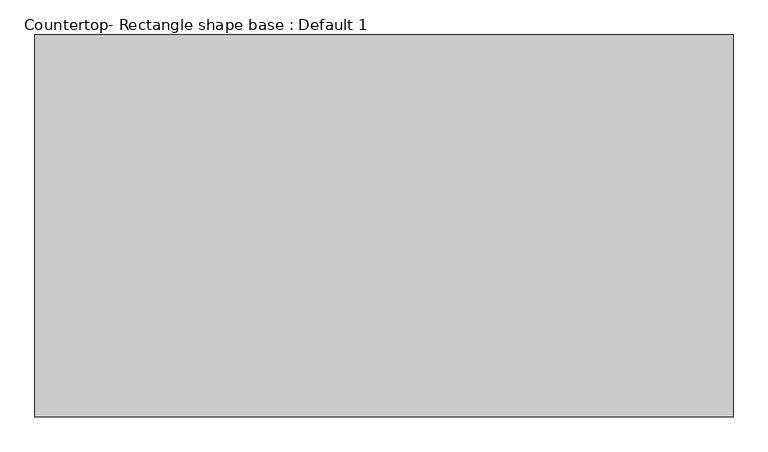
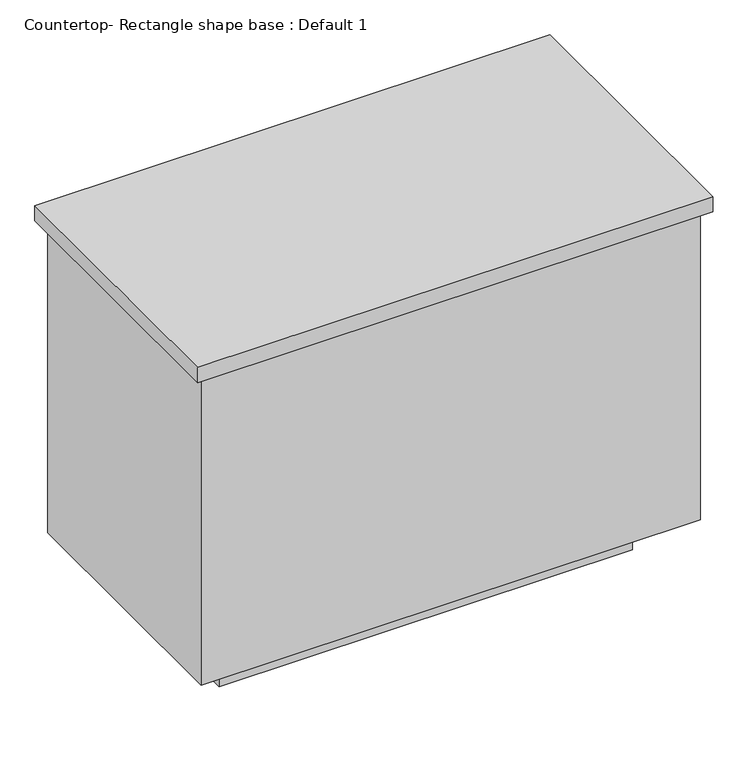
"""IFC4 building model written with IfcOpenShell, lengths in millimetres: proxy geometry, Countertop- Rectangle shape base : Default 1."""

from ifc_helpers import new_model, si_unit, frame, origin, origin_with_axes, place, context, project, spatial, polyline, outline, extrude, source, transform, mapped, element, save


def countertop_rectangle_shape_base_default_1_c94d556d(model_context):
    return source(origin(), model_context, "Body", "SweptSolid", [
        extrude(outline(polyline([(152.4, 47.625), (152.4, 714.375), (1371.6, 714.375), (1371.6, 47.625), (152.4, 47.625)])), frame((0.0, 0.0, 876.3), z_axis=(0.0, 0.0, 1.0), x_axis=(1.0, 0.0, 0.0)), (0.0, 0.0, 1.0), 38.1),
        extrude(outline(polyline([(1352.55, 695.325), (1352.55, 66.675), (171.45, 66.675), (171.45, 695.325), (1352.55, 695.325)])), frame((0.0, 0.0, 101.6), z_axis=(0.0, 0.0, 1.0), x_axis=(1.0, 0.0, 0.0)), (0.0, 0.0, 1.0), 774.7),
        extrude(outline(polyline([(1250.95, 593.725), (1250.95, 168.275), (273.05, 168.275), (273.05, 593.725), (1250.95, 593.725)])), origin_with_axes(), (0.0, 0.0, 1.0), 101.6),
    ])


if __name__ == "__main__":
    model = new_model("IFC4")
    model_context = context("Model", 3, world=origin())
    ifc_project = project(units=[si_unit("LENGTHUNIT", "METRE", prefix="MILLI")], contexts=[model_context])
    site = spatial("IfcSite", under=ifc_project)
    building = spatial("IfcBuilding", under=site)
    placement = place(None, origin())
    countertop_rectangle_shape_base_default_1_shape = countertop_rectangle_shape_base_default_1_c94d556d(model_context)
    element("IfcBuildingElementProxy", 1, Name="Countertop- Rectangle shape base : Default 1", ObjectType="Countertop- Rectangle shape base : Default 1", at=placement, inside=building, context=model_context, shape_type="MappedRepresentation", body=[
        mapped(countertop_rectangle_shape_base_default_1_shape, transform((0.0, 0.0, 0.0), x_axis=(1.0, 0.0, 0.0), y_axis=(0.0, 1.0, 0.0), z_axis=(0.0, 0.0, 1.0))),
    ])
    save(model, "model.ifc")
